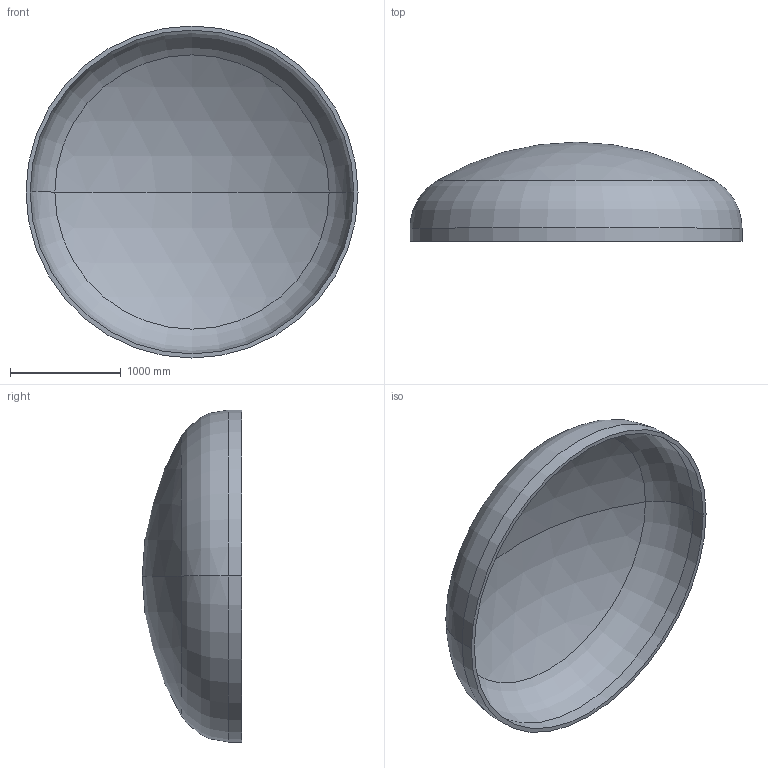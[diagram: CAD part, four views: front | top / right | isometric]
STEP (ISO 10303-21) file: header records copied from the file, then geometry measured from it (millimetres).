
FILE_DESCRIPTION (( 'STEP AP203' ), '1' );
FILE_NAME ('DIN 28013 Korbbogenform_-_Boden DIN 28013 - 3000 x 120 - I - s=38.step', '2016-07-01T17:44:49', ( '' ), ( '' ), 'SwSTEP 2.0', 'SolidWorks 2013', '' );
FILE_SCHEMA (( 'CONFIG_CONTROL_DESIGN' ));
Length unit declared in the file: millimetre
Products named in the file (1): DIN 28013 Korbbogenform_-_Boden DIN 28013 - 3000 x 120 - I - s=38
Bounding box: 3000 x 896.8 x 3000 mm (x, y, z)
Volume: 407959438.6 mm3; surface area: 21828171.2 mm2
Topology: 1 solids, 1 shells, 13 faces, 24 edges, 14 vertices
Faces by surface type: torus 4, cylinder 4, sphere 4, plane 1
Entity records: 407 total; most frequent: DIRECTION 72, CARTESIAN_POINT 52, ORIENTED_EDGE 48, AXIS2_PLACEMENT_3D 34, EDGE_CURVE 24, CIRCLE 20, VERTEX_POINT 14, EDGE_LOOP 14
